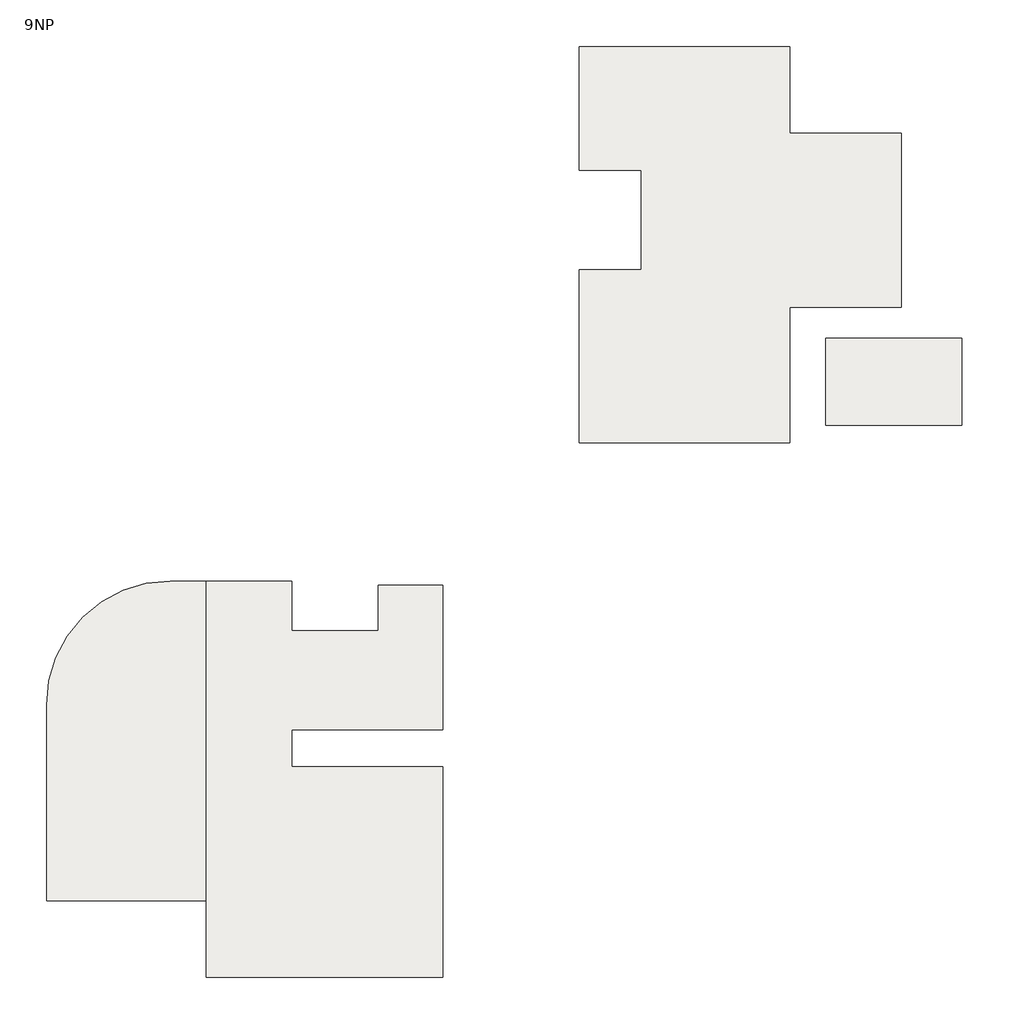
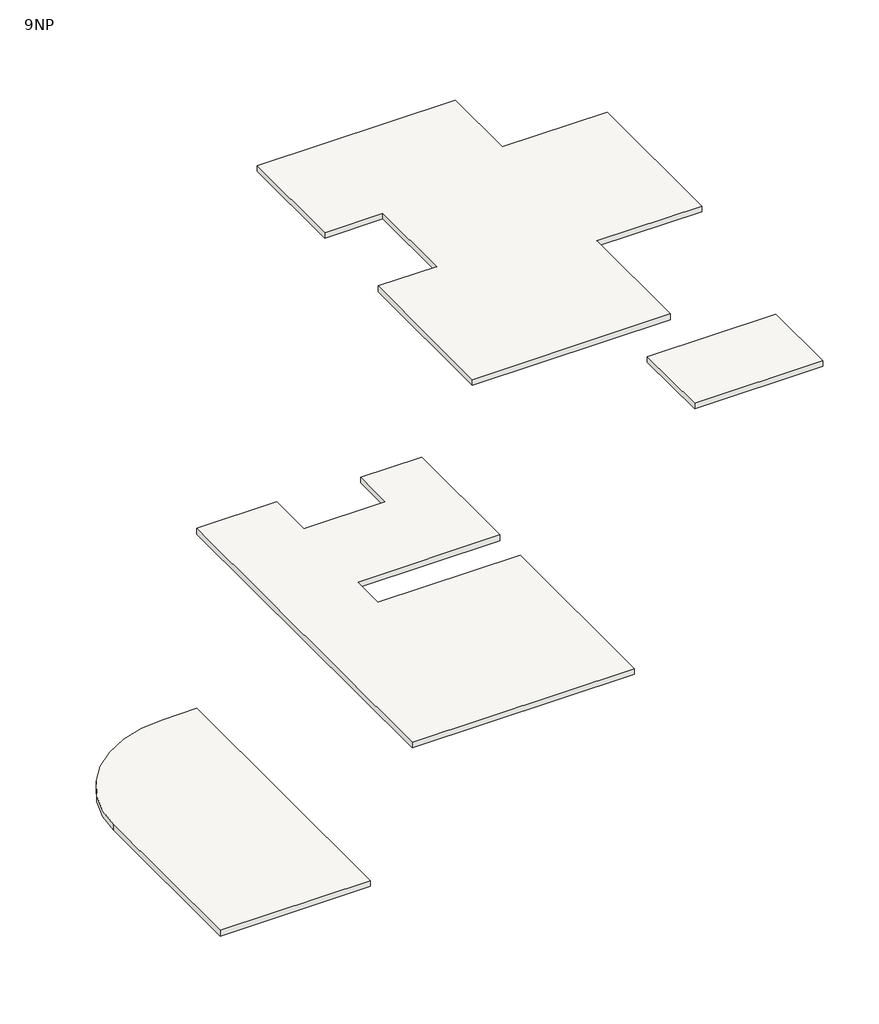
# One storey: 3 roofs.
"""IFC4 building model written with IfcOpenShell, lengths in millimetres."""

from ifc_helpers import new_model, si_unit, point, frame, frame_2d, origin, place, context, project, spatial, polyline, circle_curve, trimmed, segment, composite_curve, outline, extrude, element, save

model = new_model("IFC4")

# Units and contexts
model_context = context("Model", 3, world=origin())
ifc_project = project(units=[si_unit("LENGTHUNIT", "METRE", prefix="MILLI")], contexts=[model_context])

# Site, building, storey
site = spatial("IfcSite", under=ifc_project)
building = spatial("IfcBuilding", under=site)
storey = spatial("IfcBuildingStorey", under=building, Name="9NP", Elevation=35000.0)

# Roofs
placement = place(None, origin())
element("IfcRoof", 1, ObjectType="Steel Bar Joist - Steel Deck - EPDM Membrane", at=placement, inside=storey, context=model_context, shape_type="SweptSolid", body=[
    extrude(outline(polyline([(-5587.173406, 8375.9839566), (1278.419219, 8375.9839566), (1278.419219, 4375.9839566), (8278.419219, 4375.9839566), (8278.419219, 8039.3555415), (13503.2660975, 8039.3555415), (13503.2660975, -3624.0160434), (1278.419219, -3624.0160434), (1278.419219, -6624.0160434), (13503.2660975, -6624.0160434), (13503.2660975, -23624.0160434), (-5587.173406, -23624.0160434), (-5587.173406, 8375.9839566)])), frame((0.0, 0.0, 28268.2453384), z_axis=(0.0, 0.0, 1.0), x_axis=(1.0, 0.0, 0.0)), (0.0, 0.0, 1.0), 505.0),
    extrude(outline(composite_curve([segment(polyline([(-5587.173406, -17423.5291324), (-18496.7339025, -17423.5291324), (-18496.7339025, -1624.0160434)]), True, "CONTINUOUS"), segment(trimmed(circle_curve(frame_2d((-8496.7339025, -1624.0160434)), 10000.0), [point((-18496.7339025, -1624.0160434))], [point((-8496.7339025, 8375.9839566))], False, "CARTESIAN"), True, "CONTINUOUS"), segment(polyline([(-8496.7339025, 8375.9839566), (-5587.173406, 8375.9839566), (-5587.173406, -17423.5291324)]), True, "CONTINUOUS")], self_intersect=False)), frame((0.0, 0.0, 11943.4924443), z_axis=(0.0, 0.0, 1.0), x_axis=(1.0, 0.0, 0.0)), (0.0, 0.0, 1.0), 505.0),
])
element("IfcRoof", 2, ObjectType="Steel Bar Joist - Steel Deck - EPDM Membrane", at=placement, inside=storey, context=model_context, shape_type="SweptSolid", body=[
    extrude(outline(polyline([(24503.2660975, 19519.7749227), (24503.2660975, 33519.7749227), (29503.2660975, 33519.7749227), (29503.2660975, 41519.7749227), (24503.2660975, 41519.7749227), (24503.2660975, 51519.7749227), (41503.2660975, 51519.7749227), (41503.2660975, 44519.7749227), (50503.2660975, 44519.7749227), (50503.2660975, 30457.4517739), (41503.2660975, 30457.4517739), (41503.2660975, 19519.7749227), (24503.2660975, 19519.7749227)])), frame((0.0, 0.0, 24495.0), z_axis=(0.0, 0.0, 1.0), x_axis=(1.0, 0.0, 0.0)), (0.0, 0.0, 1.0), 505.0),
    extrude(outline(polyline([(44401.4778879, 20957.9625489), (44401.4778879, 27957.9625489), (55401.4778879, 27957.9625489), (55401.4778879, 20957.9625489), (44401.4778879, 20957.9625489)])), frame((0.0, 0.0, 14495.0), z_axis=(0.0, 0.0, 1.0), x_axis=(1.0, 0.0, 0.0)), (0.0, 0.0, 1.0), 505.0),
])
element("IfcRoof", 3, ObjectType="Steel Bar Joist - Steel Deck - EPDM Membrane", at=placement, inside=storey, context=model_context, shape_type="SweptSolid", body=[
    extrude(outline(polyline([(24503.2660975, 19519.7749227), (24503.2660975, 33519.7749227), (29503.2660975, 33519.7749227), (29503.2660975, 41519.7749227), (24503.2660975, 41519.7749227), (24503.2660975, 51519.7749227), (41503.2660975, 51519.7749227), (41503.2660975, 44519.7749227), (50503.2660975, 44519.7749227), (50503.2660975, 30457.4517739), (41503.2660975, 30457.4517739), (41503.2660975, 19519.7749227), (24503.2660975, 19519.7749227)])), frame((0.0, 0.0, 24495.0), z_axis=(0.0, 0.0, 1.0), x_axis=(1.0, 0.0, 0.0)), (0.0, 0.0, 1.0), 505.0),
    extrude(outline(polyline([(44401.4778879, 20957.9625489), (44401.4778879, 27957.9625489), (55401.4778879, 27957.9625489), (55401.4778879, 20957.9625489), (44401.4778879, 20957.9625489)])), frame((0.0, 0.0, 14495.0), z_axis=(0.0, 0.0, 1.0), x_axis=(1.0, 0.0, 0.0)), (0.0, 0.0, 1.0), 505.0),
])

save(model, "model.ifc")
